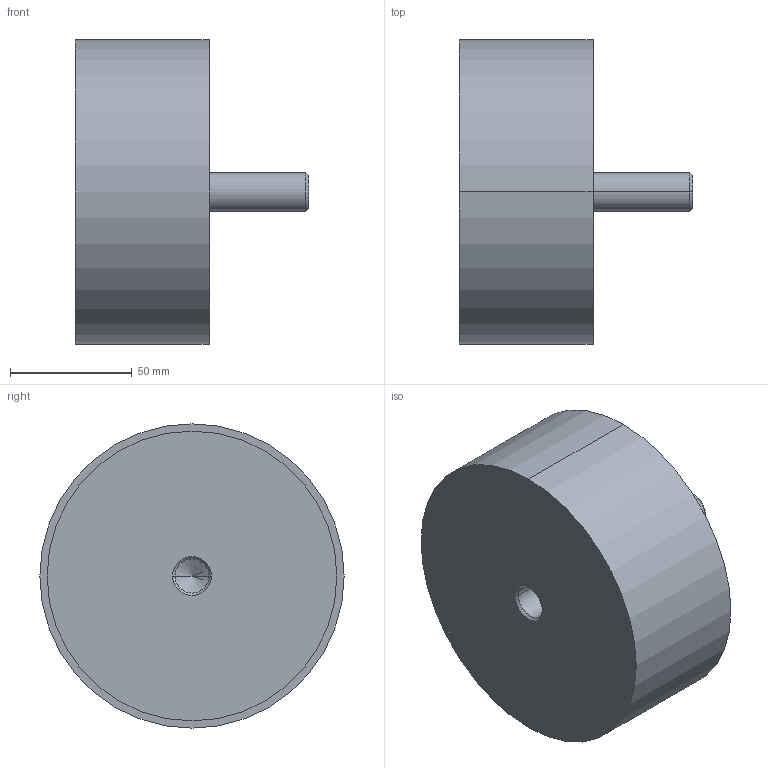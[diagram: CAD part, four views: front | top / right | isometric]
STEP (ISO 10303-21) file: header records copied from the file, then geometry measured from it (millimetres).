
FILE_DESCRIPTION (( 'STEP AP214' ), '1' );
FILE_NAME ('351-125-55-M16-ES-70.step', '2025-07-23T09:44:07', ( '' ), ( '' ), 'SwSTEP 2.0', 'SolidWorks 2022', '' );
FILE_SCHEMA (( 'AUTOMOTIVE_DESIGN' ));
Length unit declared in the file: millimetre
Products named in the file (1): 351-125-55-M16-ES-70
Bounding box: 96 x 125 x 125 mm (x, y, z)
Volume: 680023.5 mm3; surface area: 48939.2 mm2
Topology: 1 solids, 1 shells, 24 faces, 48 edges, 29 vertices
Faces by surface type: cylinder 12, cone 6, plane 6
Entity records: 740 total; most frequent: DIRECTION 124, CARTESIAN_POINT 100, ORIENTED_EDGE 92, AXIS2_PLACEMENT_3D 53, EDGE_CURVE 46, EDGE_LOOP 29, VERTEX_POINT 29, CIRCLE 28
